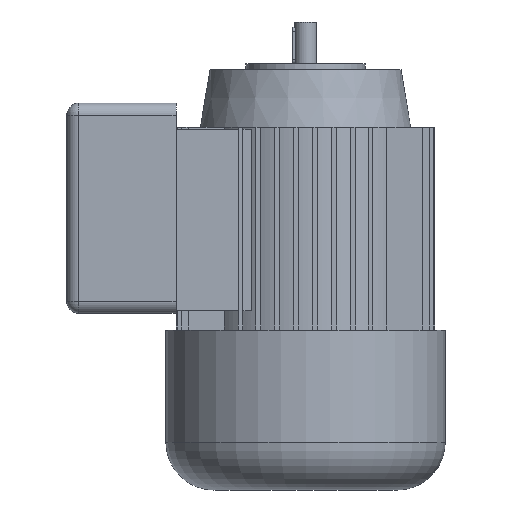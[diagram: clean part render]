
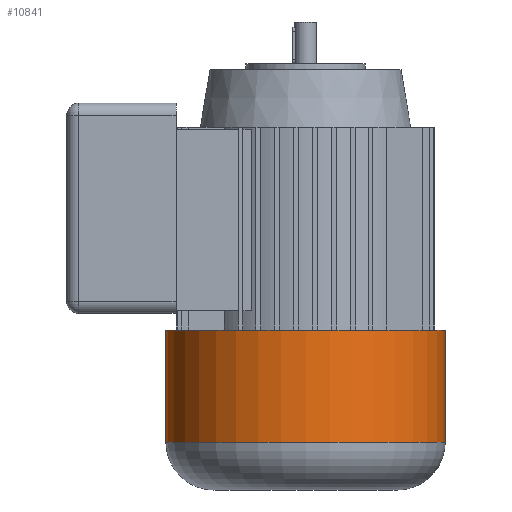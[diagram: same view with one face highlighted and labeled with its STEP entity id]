
A CAD part, left-side view. The second image highlights one B-rep face of the part: STEP entity #10841.
In plain terms, the highlighted cylindrical face has radius 58.5 mm (diameter 117 mm), a partial arc.
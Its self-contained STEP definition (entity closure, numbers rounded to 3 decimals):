
#799 = CIRCLE ( 'NONE', #1830, 58.5 ) ;
#1215 = ORIENTED_EDGE ( 'NONE', *, *, #10762, .F. ) ;
#1280 = CARTESIAN_POINT ( 'NONE',  ( -166.5, 86.5, 0. ) ) ;
#1339 = VERTEX_POINT ( 'NONE', #11413 ) ;
#1830 = AXIS2_PLACEMENT_3D ( 'NONE', #2443, #2964, #5445 ) ;
#2003 = CARTESIAN_POINT ( 'NONE',  ( -213.5, 86.5, 0. ) ) ;
#2443 = CARTESIAN_POINT ( 'NONE',  ( -213.5, 28., 0. ) ) ;
#2503 = FACE_OUTER_BOUND ( 'NONE', #5789, .T. ) ;
#2595 = CARTESIAN_POINT ( 'NONE',  ( -166.5, 86.5, 0. ) ) ;
#2964 = DIRECTION ( 'NONE',  ( 1., 0., 0. ) ) ;
#3128 = AXIS2_PLACEMENT_3D ( 'NONE', #7331, #8293, #8179 ) ;
#3169 = VERTEX_POINT ( 'NONE', #1280 ) ;
#3899 = VERTEX_POINT ( 'NONE', #2003 ) ;
#3938 = DIRECTION ( 'NONE',  ( 1., 0., 0. ) ) ;
#3985 = VECTOR ( 'NONE', #9124, 1000. ) ;
#4392 = EDGE_CURVE ( 'NONE', #1339, #7475, #4674, .T. ) ;
#4674 = LINE ( 'NONE', #8348, #3985 ) ;
#5136 = EDGE_CURVE ( 'NONE', #3899, #3169, #5349, .T. ) ;
#5202 = DIRECTION ( 'NONE',  ( 1., 0., 0. ) ) ;
#5349 = LINE ( 'NONE', #2595, #9250 ) ;
#5445 = DIRECTION ( 'NONE',  ( 0., 1., 0. ) ) ;
#5519 = EDGE_CURVE ( 'NONE', #3899, #1339, #799, .T. ) ;
#5789 = EDGE_LOOP ( 'NONE', ( #11411, #10761, #1215, #10534 ) ) ;
#5795 = DIRECTION ( 'NONE',  ( 0., 1., 0. ) ) ;
#6173 = CYLINDRICAL_SURFACE ( 'NONE', #11182, 58.5 ) ;
#7331 = CARTESIAN_POINT ( 'NONE',  ( -166.5, 28., 0. ) ) ;
#7475 = VERTEX_POINT ( 'NONE', #7663 ) ;
#7663 = CARTESIAN_POINT ( 'NONE',  ( -166.5, -30.5, 0. ) ) ;
#8179 = DIRECTION ( 'NONE',  ( 0., 0., 1. ) ) ;
#8293 = DIRECTION ( 'NONE',  ( 1., 0., 0. ) ) ;
#8348 = CARTESIAN_POINT ( 'NONE',  ( -166.5, -30.5, 0. ) ) ;
#8630 = CARTESIAN_POINT ( 'NONE',  ( -166.5, 28., 0. ) ) ;
#9124 = DIRECTION ( 'NONE',  ( 1., 0., 0. ) ) ;
#9250 = VECTOR ( 'NONE', #5202, 1000. ) ;
#10534 = ORIENTED_EDGE ( 'NONE', *, *, #5136, .F. ) ;
#10761 = ORIENTED_EDGE ( 'NONE', *, *, #4392, .T. ) ;
#10762 = EDGE_CURVE ( 'NONE', #3169, #7475, #10855, .T. ) ;
#10841 = ADVANCED_FACE ( 'NONE', ( #2503 ), #6173, .T. ) ;
#10855 = CIRCLE ( 'NONE', #3128, 58.5 ) ;
#11182 = AXIS2_PLACEMENT_3D ( 'NONE', #8630, #3938, #5795 ) ;
#11411 = ORIENTED_EDGE ( 'NONE', *, *, #5519, .T. ) ;
#11413 = CARTESIAN_POINT ( 'NONE',  ( -213.5, -30.5, 0. ) ) ;
